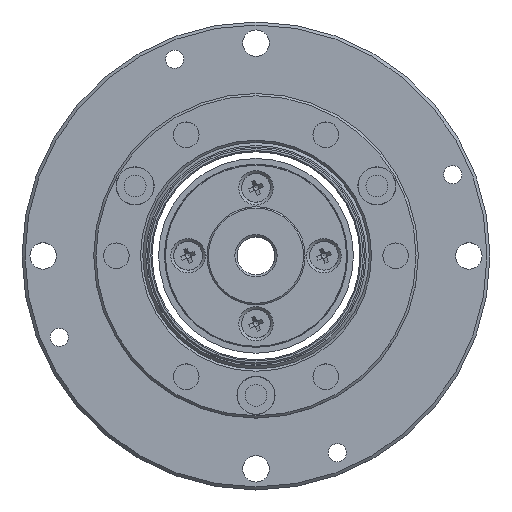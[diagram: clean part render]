
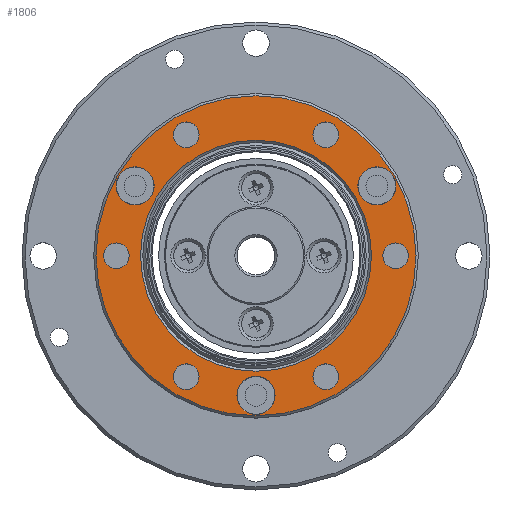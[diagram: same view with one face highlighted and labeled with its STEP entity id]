
A CAD part, top view. The second image highlights one B-rep face of the part: STEP entity #1806.
In plain terms, the highlighted planar face has unit normal (0, 0, 1).
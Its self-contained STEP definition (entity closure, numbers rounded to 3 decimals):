
#90 = CARTESIAN_POINT ( 'NONE',  ( 9.25, 17.721, 0. ) ) ;
#375 = DIRECTION ( 'NONE',  ( 0., 0., -1. ) ) ;
#752 = CARTESIAN_POINT ( 'NONE',  ( -16.021, 11.775, 0. ) ) ;
#759 = DIRECTION ( 'NONE',  ( 0., 0., -1. ) ) ;
#830 = AXIS2_PLACEMENT_3D ( 'NONE', #4724, #1063, #2042 ) ;
#905 = CARTESIAN_POINT ( 'NONE',  ( 0., 0., 0. ) ) ;
#1063 = DIRECTION ( 'NONE',  ( 0., 0., -1. ) ) ;
#1160 = ORIENTED_EDGE ( 'NONE', *, *, #11051, .T. ) ;
#1212 = DIRECTION ( 'NONE',  ( 0., 1., 0. ) ) ;
#1316 = CARTESIAN_POINT ( 'NONE',  ( 0., -15.975, 0. ) ) ;
#1331 = CIRCLE ( 'NONE', #6733, 1.7 ) ;
#1358 = FACE_BOUND ( 'NONE', #10581, .T. ) ;
#1437 = CIRCLE ( 'NONE', #10565, 15.3 ) ;
#1508 = CARTESIAN_POINT ( 'NONE',  ( -9.25, 17.721, 0. ) ) ;
#1585 = ORIENTED_EDGE ( 'NONE', *, *, #5032, .T. ) ;
#1642 = FACE_BOUND ( 'NONE', #4783, .T. ) ;
#1666 = CARTESIAN_POINT ( 'NONE',  ( 0., -21.2, 0. ) ) ;
#1806 = ADVANCED_FACE ( 'NONE', ( #4166, #3621, #7696, #4315, #1642, #6159, #11572, #1929, #5740, #1358, #6025 ), #11419, .T. ) ;
#1816 = DIRECTION ( 'NONE',  ( 0., 0., 1. ) ) ;
#1875 = CARTESIAN_POINT ( 'NONE',  ( -9.25, 16.021, 0. ) ) ;
#1929 = FACE_BOUND ( 'NONE', #7866, .T. ) ;
#1952 = DIRECTION ( 'NONE',  ( 0., 1., 0. ) ) ;
#2042 = DIRECTION ( 'NONE',  ( 0., 1., 0. ) ) ;
#2381 = EDGE_CURVE ( 'NONE', #7547, #7547, #9124, .T. ) ;
#2521 = DIRECTION ( 'NONE',  ( 0., 0., -1. ) ) ;
#2653 = DIRECTION ( 'NONE',  ( 0., 1., 0. ) ) ;
#2708 = ORIENTED_EDGE ( 'NONE', *, *, #7044, .T. ) ;
#2872 = AXIS2_PLACEMENT_3D ( 'NONE', #9069, #375, #7672 ) ;
#2885 = CIRCLE ( 'NONE', #8307, 2.525 ) ;
#3075 = CARTESIAN_POINT ( 'NONE',  ( -18.5, 1.7, 0. ) ) ;
#3184 = ORIENTED_EDGE ( 'NONE', *, *, #3672, .T. ) ;
#3350 = CARTESIAN_POINT ( 'NONE',  ( 9.25, -16.021, 0. ) ) ;
#3565 = DIRECTION ( 'NONE',  ( 0., 0., -1. ) ) ;
#3621 = FACE_OUTER_BOUND ( 'NONE', #6217, .T. ) ;
#3672 = EDGE_CURVE ( 'NONE', #8395, #8395, #5141, .T. ) ;
#3692 = DIRECTION ( 'NONE',  ( 0., 1., 0. ) ) ;
#3771 = DIRECTION ( 'NONE',  ( 0., 0., -1. ) ) ;
#3925 = ORIENTED_EDGE ( 'NONE', *, *, #4938, .T. ) ;
#3989 = VERTEX_POINT ( 'NONE', #11257 ) ;
#4041 = AXIS2_PLACEMENT_3D ( 'NONE', #7480, #7413, #1212 ) ;
#4166 = FACE_BOUND ( 'NONE', #6372, .T. ) ;
#4270 = EDGE_CURVE ( 'NONE', #10829, #10829, #1331, .T. ) ;
#4297 = CARTESIAN_POINT ( 'NONE',  ( -18.5, 0., 0. ) ) ;
#4315 = FACE_BOUND ( 'NONE', #5654, .T. ) ;
#4468 = EDGE_LOOP ( 'NONE', ( #5529 ) ) ;
#4496 = CARTESIAN_POINT ( 'NONE',  ( 0., 0., 0. ) ) ;
#4708 = VERTEX_POINT ( 'NONE', #9371 ) ;
#4724 = CARTESIAN_POINT ( 'NONE',  ( 18.5, 0., 0. ) ) ;
#4783 = EDGE_LOOP ( 'NONE', ( #3184 ) ) ;
#4938 = EDGE_CURVE ( 'NONE', #9387, #9387, #7398, .T. ) ;
#5028 = ORIENTED_EDGE ( 'NONE', *, *, #6472, .T. ) ;
#5032 = EDGE_CURVE ( 'NONE', #4708, #4708, #9090, .T. ) ;
#5121 = DIRECTION ( 'NONE',  ( 0., 1., 0. ) ) ;
#5141 = CIRCLE ( 'NONE', #2872, 2.525 ) ;
#5200 = DIRECTION ( 'NONE',  ( 0., 0., -1. ) ) ;
#5373 = CIRCLE ( 'NONE', #5464, 2.525 ) ;
#5464 = AXIS2_PLACEMENT_3D ( 'NONE', #8810, #7022, #5998 ) ;
#5529 = ORIENTED_EDGE ( 'NONE', *, *, #11609, .T. ) ;
#5553 = CARTESIAN_POINT ( 'NONE',  ( -9.25, -16.021, 0. ) ) ;
#5634 = AXIS2_PLACEMENT_3D ( 'NONE', #905, #1816, #9036 ) ;
#5654 = EDGE_LOOP ( 'NONE', ( #5028 ) ) ;
#5740 = FACE_BOUND ( 'NONE', #9863, .T. ) ;
#5815 = DIRECTION ( 'NONE',  ( 0., 1., 0. ) ) ;
#5988 = EDGE_LOOP ( 'NONE', ( #1585 ) ) ;
#5998 = DIRECTION ( 'NONE',  ( 0., 1., 0. ) ) ;
#6025 = FACE_BOUND ( 'NONE', #8471, .T. ) ;
#6159 = FACE_BOUND ( 'NONE', #4468, .T. ) ;
#6217 = EDGE_LOOP ( 'NONE', ( #11319 ) ) ;
#6349 = ORIENTED_EDGE ( 'NONE', *, *, #4270, .T. ) ;
#6372 = EDGE_LOOP ( 'NONE', ( #2708 ) ) ;
#6472 = EDGE_CURVE ( 'NONE', #11542, #11542, #7085, .T. ) ;
#6733 = AXIS2_PLACEMENT_3D ( 'NONE', #1875, #3565, #1952 ) ;
#7022 = DIRECTION ( 'NONE',  ( 0., 0., -1. ) ) ;
#7044 = EDGE_CURVE ( 'NONE', #3989, #3989, #1437, .T. ) ;
#7075 = CARTESIAN_POINT ( 'NONE',  ( -16.021, 9.25, 0. ) ) ;
#7085 = CIRCLE ( 'NONE', #7198, 1.7 ) ;
#7090 = AXIS2_PLACEMENT_3D ( 'NONE', #10378, #11266, #5815 ) ;
#7198 = AXIS2_PLACEMENT_3D ( 'NONE', #3350, #2521, #5121 ) ;
#7235 = DIRECTION ( 'NONE',  ( 0., 1., 0. ) ) ;
#7282 = EDGE_CURVE ( 'NONE', #8259, #8259, #5373, .T. ) ;
#7398 = CIRCLE ( 'NONE', #9464, 1.7 ) ;
#7413 = DIRECTION ( 'NONE',  ( 0., 0., -1. ) ) ;
#7480 = CARTESIAN_POINT ( 'NONE',  ( 9.25, 16.021, 0. ) ) ;
#7547 = VERTEX_POINT ( 'NONE', #90 ) ;
#7633 = ORIENTED_EDGE ( 'NONE', *, *, #7282, .T. ) ;
#7672 = DIRECTION ( 'NONE',  ( 0., 1., 0. ) ) ;
#7696 = FACE_BOUND ( 'NONE', #8910, .T. ) ;
#7815 = CARTESIAN_POINT ( 'NONE',  ( 16.021, 11.775, 0. ) ) ;
#7866 = EDGE_LOOP ( 'NONE', ( #9695 ) ) ;
#8259 = VERTEX_POINT ( 'NONE', #1316 ) ;
#8307 = AXIS2_PLACEMENT_3D ( 'NONE', #7075, #759, #2653 ) ;
#8395 = VERTEX_POINT ( 'NONE', #7815 ) ;
#8471 = EDGE_LOOP ( 'NONE', ( #1160 ) ) ;
#8547 = CARTESIAN_POINT ( 'NONE',  ( 9.25, -14.321, 0. ) ) ;
#8746 = AXIS2_PLACEMENT_3D ( 'NONE', #5553, #3771, #3692 ) ;
#8810 = CARTESIAN_POINT ( 'NONE',  ( 0., -18.5, 0. ) ) ;
#8853 = DIRECTION ( 'NONE',  ( 0., 1., 0. ) ) ;
#8910 = EDGE_LOOP ( 'NONE', ( #7633 ) ) ;
#9021 = EDGE_CURVE ( 'NONE', #9669, #9669, #11506, .T. ) ;
#9036 = DIRECTION ( 'NONE',  ( 0., -1., 0. ) ) ;
#9069 = CARTESIAN_POINT ( 'NONE',  ( 16.021, 9.25, 0. ) ) ;
#9090 = CIRCLE ( 'NONE', #830, 1.7 ) ;
#9124 = CIRCLE ( 'NONE', #4041, 1.7 ) ;
#9259 = CIRCLE ( 'NONE', #8746, 1.7 ) ;
#9371 = CARTESIAN_POINT ( 'NONE',  ( 18.5, 1.7, 0. ) ) ;
#9377 = VERTEX_POINT ( 'NONE', #9819 ) ;
#9387 = VERTEX_POINT ( 'NONE', #3075 ) ;
#9464 = AXIS2_PLACEMENT_3D ( 'NONE', #4297, #5200, #8853 ) ;
#9669 = VERTEX_POINT ( 'NONE', #1666 ) ;
#9695 = ORIENTED_EDGE ( 'NONE', *, *, #2381, .T. ) ;
#9819 = CARTESIAN_POINT ( 'NONE',  ( -9.25, -14.321, 0. ) ) ;
#9863 = EDGE_LOOP ( 'NONE', ( #6349 ) ) ;
#10241 = VERTEX_POINT ( 'NONE', #752 ) ;
#10378 = CARTESIAN_POINT ( 'NONE',  ( -21.2, 0., 0. ) ) ;
#10565 = AXIS2_PLACEMENT_3D ( 'NONE', #4496, #10867, #7235 ) ;
#10581 = EDGE_LOOP ( 'NONE', ( #3925 ) ) ;
#10829 = VERTEX_POINT ( 'NONE', #1508 ) ;
#10867 = DIRECTION ( 'NONE',  ( 0., 0., -1. ) ) ;
#11051 = EDGE_CURVE ( 'NONE', #9377, #9377, #9259, .T. ) ;
#11257 = CARTESIAN_POINT ( 'NONE',  ( 0., 15.3, 0. ) ) ;
#11266 = DIRECTION ( 'NONE',  ( 0., 0., 1. ) ) ;
#11319 = ORIENTED_EDGE ( 'NONE', *, *, #9021, .T. ) ;
#11419 = PLANE ( 'NONE',  #7090 ) ;
#11506 = CIRCLE ( 'NONE', #5634, 21.2 ) ;
#11542 = VERTEX_POINT ( 'NONE', #8547 ) ;
#11572 = FACE_BOUND ( 'NONE', #5988, .T. ) ;
#11609 = EDGE_CURVE ( 'NONE', #10241, #10241, #2885, .T. ) ;
